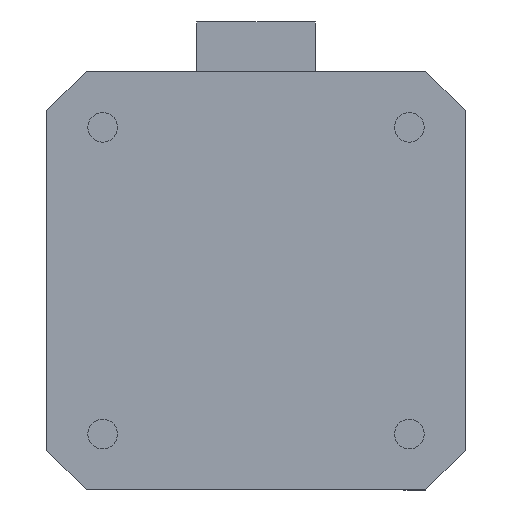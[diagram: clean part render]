
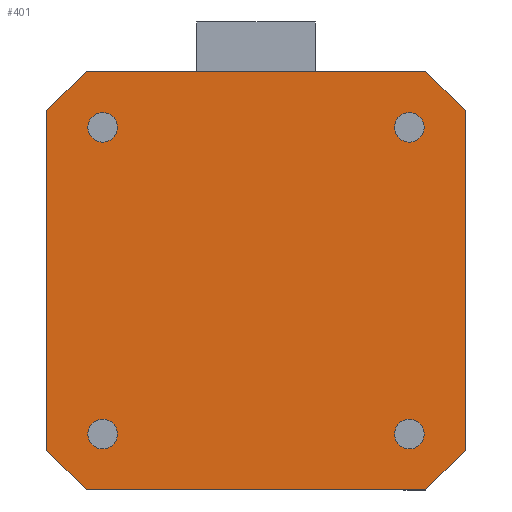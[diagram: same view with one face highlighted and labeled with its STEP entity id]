
A CAD part, front view. The second image highlights one B-rep face of the part: STEP entity #401.
In plain terms, the highlighted planar face has unit normal (0, -1, 0).
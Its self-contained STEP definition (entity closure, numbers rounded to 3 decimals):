
#35 = FACE_BOUND ( 'NONE', #2878, .T. ) ;
#60 = CARTESIAN_POINT ( 'NONE',  ( 15.5, 0., -14. ) ) ;
#81 = DIRECTION ( 'NONE',  ( 0., 0., -1. ) ) ;
#88 = EDGE_CURVE ( 'NONE', #451, #2428, #1458, .T. ) ;
#93 = CARTESIAN_POINT ( 'NONE',  ( 15.5, 0., 15.5 ) ) ;
#119 = DIRECTION ( 'NONE',  ( 0., 0., -1. ) ) ;
#151 = CARTESIAN_POINT ( 'NONE',  ( -17.157, 0., 21.15 ) ) ;
#168 = CARTESIAN_POINT ( 'NONE',  ( 21.15, 0., 17.157 ) ) ;
#197 = LINE ( 'NONE', #151, #1372 ) ;
#199 = EDGE_CURVE ( 'NONE', #692, #2116, #4118, .T. ) ;
#320 = AXIS2_PLACEMENT_3D ( 'NONE', #1161, #2853, #2538 ) ;
#373 = PLANE ( 'NONE',  #1700 ) ;
#388 = DIRECTION ( 'NONE',  ( 0., 0., -1. ) ) ;
#401 = ADVANCED_FACE ( 'NONE', ( #1120, #35, #1148, #2525, #770 ), #373, .T. ) ;
#451 = VERTEX_POINT ( 'NONE', #2931 ) ;
#499 = EDGE_LOOP ( 'NONE', ( #2709, #2235 ) ) ;
#518 = DIRECTION ( 'NONE',  ( 0.707, 0., 0.707 ) ) ;
#546 = VERTEX_POINT ( 'NONE', #734 ) ;
#564 = CARTESIAN_POINT ( 'NONE',  ( 17.157, 0., -21.15 ) ) ;
#584 = CARTESIAN_POINT ( 'NONE',  ( -17.157, 0., 21.15 ) ) ;
#601 = VERTEX_POINT ( 'NONE', #2872 ) ;
#605 = VERTEX_POINT ( 'NONE', #3557 ) ;
#659 = CIRCLE ( 'NONE', #1472, 1.5 ) ;
#676 = VERTEX_POINT ( 'NONE', #2179 ) ;
#692 = VERTEX_POINT ( 'NONE', #1424 ) ;
#725 = EDGE_CURVE ( 'NONE', #2428, #451, #2844, .T. ) ;
#734 = CARTESIAN_POINT ( 'NONE',  ( 15.5, 0., 14. ) ) ;
#770 = FACE_OUTER_BOUND ( 'NONE', #860, .T. ) ;
#788 = LINE ( 'NONE', #2189, #1762 ) ;
#797 = ORIENTED_EDGE ( 'NONE', *, *, #2356, .F. ) ;
#846 = CARTESIAN_POINT ( 'NONE',  ( -21.15, 0., -17.157 ) ) ;
#860 = EDGE_LOOP ( 'NONE', ( #3129, #797, #2274, #2351, #3214, #3267, #2206, #1140 ) ) ;
#871 = VERTEX_POINT ( 'NONE', #1560 ) ;
#874 = DIRECTION ( 'NONE',  ( 0., -1., 0. ) ) ;
#895 = AXIS2_PLACEMENT_3D ( 'NONE', #2795, #4199, #3849 ) ;
#1018 = CARTESIAN_POINT ( 'NONE',  ( -15.5, 0., 15.5 ) ) ;
#1030 = EDGE_CURVE ( 'NONE', #601, #3998, #197, .T. ) ;
#1079 = CARTESIAN_POINT ( 'NONE',  ( 15.5, 0., 15.5 ) ) ;
#1095 = DIRECTION ( 'NONE',  ( 0., -1., 0. ) ) ;
#1120 = FACE_BOUND ( 'NONE', #499, .T. ) ;
#1140 = ORIENTED_EDGE ( 'NONE', *, *, #3687, .F. ) ;
#1148 = FACE_BOUND ( 'NONE', #3358, .T. ) ;
#1161 = CARTESIAN_POINT ( 'NONE',  ( -15.5, 0., -15.5 ) ) ;
#1162 = VERTEX_POINT ( 'NONE', #564 ) ;
#1165 = VERTEX_POINT ( 'NONE', #2967 ) ;
#1192 = VERTEX_POINT ( 'NONE', #846 ) ;
#1209 = DIRECTION ( 'NONE',  ( 0., -1., 0. ) ) ;
#1233 = CARTESIAN_POINT ( 'NONE',  ( 15.5, 0., 17. ) ) ;
#1329 = DIRECTION ( 'NONE',  ( 0., -1., 0. ) ) ;
#1372 = VECTOR ( 'NONE', #518, 1000. ) ;
#1424 = CARTESIAN_POINT ( 'NONE',  ( -15.5, 0., 17. ) ) ;
#1437 = EDGE_CURVE ( 'NONE', #3230, #676, #4244, .T. ) ;
#1458 = CIRCLE ( 'NONE', #1537, 1.5 ) ;
#1472 = AXIS2_PLACEMENT_3D ( 'NONE', #93, #874, #1493 ) ;
#1493 = DIRECTION ( 'NONE',  ( 0., 0., -1. ) ) ;
#1537 = AXIS2_PLACEMENT_3D ( 'NONE', #3814, #2830, #388 ) ;
#1560 = CARTESIAN_POINT ( 'NONE',  ( -17.157, 0., -21.15 ) ) ;
#1594 = AXIS2_PLACEMENT_3D ( 'NONE', #4274, #1833, #119 ) ;
#1619 = EDGE_CURVE ( 'NONE', #2116, #692, #2444, .T. ) ;
#1696 = VECTOR ( 'NONE', #81, 1000. ) ;
#1700 = AXIS2_PLACEMENT_3D ( 'NONE', #2790, #1095, #4175 ) ;
#1715 = AXIS2_PLACEMENT_3D ( 'NONE', #1018, #1329, #2719 ) ;
#1762 = VECTOR ( 'NONE', #4259, 1000. ) ;
#1803 = VECTOR ( 'NONE', #1976, 1000. ) ;
#1813 = DIRECTION ( 'NONE',  ( -0.707, 0., 0.707 ) ) ;
#1833 = DIRECTION ( 'NONE',  ( 0., -1., 0. ) ) ;
#1879 = ORIENTED_EDGE ( 'NONE', *, *, #88, .F. ) ;
#1932 = VERTEX_POINT ( 'NONE', #1233 ) ;
#1973 = EDGE_CURVE ( 'NONE', #676, #3230, #2664, .T. ) ;
#1976 = DIRECTION ( 'NONE',  ( 1., 0., 0. ) ) ;
#2057 = DIRECTION ( 'NONE',  ( 0.707, 0., -0.707 ) ) ;
#2116 = VERTEX_POINT ( 'NONE', #4116 ) ;
#2143 = EDGE_CURVE ( 'NONE', #546, #1932, #4398, .T. ) ;
#2167 = LINE ( 'NONE', #3537, #2570 ) ;
#2171 = EDGE_CURVE ( 'NONE', #1165, #2859, #3454, .T. ) ;
#2179 = CARTESIAN_POINT ( 'NONE',  ( -15.5, 0., -14. ) ) ;
#2189 = CARTESIAN_POINT ( 'NONE',  ( -17.157, 0., -21.15 ) ) ;
#2206 = ORIENTED_EDGE ( 'NONE', *, *, #4470, .F. ) ;
#2207 = VECTOR ( 'NONE', #4113, 1000. ) ;
#2233 = DIRECTION ( 'NONE',  ( 0., 0., -1. ) ) ;
#2235 = ORIENTED_EDGE ( 'NONE', *, *, #1973, .F. ) ;
#2274 = ORIENTED_EDGE ( 'NONE', *, *, #1030, .F. ) ;
#2314 = ORIENTED_EDGE ( 'NONE', *, *, #199, .F. ) ;
#2351 = ORIENTED_EDGE ( 'NONE', *, *, #3115, .F. ) ;
#2356 = EDGE_CURVE ( 'NONE', #3998, #1165, #3034, .T. ) ;
#2398 = LINE ( 'NONE', #3804, #2207 ) ;
#2416 = DIRECTION ( 'NONE',  ( 0., -1., 0. ) ) ;
#2428 = VERTEX_POINT ( 'NONE', #60 ) ;
#2444 = CIRCLE ( 'NONE', #1715, 1.5 ) ;
#2525 = FACE_BOUND ( 'NONE', #3951, .T. ) ;
#2538 = DIRECTION ( 'NONE',  ( 0., 0., -1. ) ) ;
#2561 = CARTESIAN_POINT ( 'NONE',  ( -15.5, 0., 15.5 ) ) ;
#2570 = VECTOR ( 'NONE', #1813, 1000. ) ;
#2615 = ORIENTED_EDGE ( 'NONE', *, *, #3023, .F. ) ;
#2664 = CIRCLE ( 'NONE', #1594, 1.5 ) ;
#2709 = ORIENTED_EDGE ( 'NONE', *, *, #1437, .F. ) ;
#2719 = DIRECTION ( 'NONE',  ( 0., 0., -1. ) ) ;
#2790 = CARTESIAN_POINT ( 'NONE',  ( 0., 0., 0. ) ) ;
#2795 = CARTESIAN_POINT ( 'NONE',  ( 15.5, 0., -15.5 ) ) ;
#2830 = DIRECTION ( 'NONE',  ( 0., -1., 0. ) ) ;
#2844 = CIRCLE ( 'NONE', #895, 1.5 ) ;
#2853 = DIRECTION ( 'NONE',  ( 0., -1., 0. ) ) ;
#2859 = VERTEX_POINT ( 'NONE', #168 ) ;
#2872 = CARTESIAN_POINT ( 'NONE',  ( -21.15, 0., 17.157 ) ) ;
#2878 = EDGE_LOOP ( 'NONE', ( #1879, #3547 ) ) ;
#2887 = CARTESIAN_POINT ( 'NONE',  ( 21.15, 0., 17.157 ) ) ;
#2931 = CARTESIAN_POINT ( 'NONE',  ( 15.5, 0., -17. ) ) ;
#2946 = CARTESIAN_POINT ( 'NONE',  ( 17.157, 0., -21.15 ) ) ;
#2967 = CARTESIAN_POINT ( 'NONE',  ( 17.157, 0., 21.15 ) ) ;
#3023 = EDGE_CURVE ( 'NONE', #1932, #546, #659, .T. ) ;
#3034 = LINE ( 'NONE', #584, #1803 ) ;
#3085 = DIRECTION ( 'NONE',  ( -0.707, 0., -0.707 ) ) ;
#3096 = CARTESIAN_POINT ( 'NONE',  ( -15.5, 0., -17. ) ) ;
#3115 = EDGE_CURVE ( 'NONE', #1192, #601, #2398, .T. ) ;
#3129 = ORIENTED_EDGE ( 'NONE', *, *, #2171, .F. ) ;
#3141 = CARTESIAN_POINT ( 'NONE',  ( 21.15, 0., 17.157 ) ) ;
#3191 = ORIENTED_EDGE ( 'NONE', *, *, #1619, .F. ) ;
#3194 = LINE ( 'NONE', #2887, #1696 ) ;
#3214 = ORIENTED_EDGE ( 'NONE', *, *, #3863, .F. ) ;
#3230 = VERTEX_POINT ( 'NONE', #3096 ) ;
#3267 = ORIENTED_EDGE ( 'NONE', *, *, #3817, .F. ) ;
#3288 = LINE ( 'NONE', #2946, #3366 ) ;
#3358 = EDGE_LOOP ( 'NONE', ( #3608, #2615 ) ) ;
#3366 = VECTOR ( 'NONE', #3085, 1000. ) ;
#3454 = LINE ( 'NONE', #3141, #4114 ) ;
#3519 = CARTESIAN_POINT ( 'NONE',  ( -17.157, 0., 21.15 ) ) ;
#3537 = CARTESIAN_POINT ( 'NONE',  ( -21.15, 0., -17.157 ) ) ;
#3539 = AXIS2_PLACEMENT_3D ( 'NONE', #1079, #2416, #3765 ) ;
#3547 = ORIENTED_EDGE ( 'NONE', *, *, #725, .F. ) ;
#3557 = CARTESIAN_POINT ( 'NONE',  ( 21.15, 0., -17.157 ) ) ;
#3608 = ORIENTED_EDGE ( 'NONE', *, *, #2143, .F. ) ;
#3687 = EDGE_CURVE ( 'NONE', #2859, #605, #3194, .T. ) ;
#3765 = DIRECTION ( 'NONE',  ( 0., 0., -1. ) ) ;
#3804 = CARTESIAN_POINT ( 'NONE',  ( -21.15, 0., 17.157 ) ) ;
#3814 = CARTESIAN_POINT ( 'NONE',  ( 15.5, 0., -15.5 ) ) ;
#3817 = EDGE_CURVE ( 'NONE', #1162, #871, #788, .T. ) ;
#3849 = DIRECTION ( 'NONE',  ( 0., 0., -1. ) ) ;
#3863 = EDGE_CURVE ( 'NONE', #871, #1192, #2167, .T. ) ;
#3893 = AXIS2_PLACEMENT_3D ( 'NONE', #2561, #1209, #2233 ) ;
#3951 = EDGE_LOOP ( 'NONE', ( #3191, #2314 ) ) ;
#3998 = VERTEX_POINT ( 'NONE', #3519 ) ;
#4113 = DIRECTION ( 'NONE',  ( 0., 0., 1. ) ) ;
#4114 = VECTOR ( 'NONE', #2057, 1000. ) ;
#4116 = CARTESIAN_POINT ( 'NONE',  ( -15.5, 0., 14. ) ) ;
#4118 = CIRCLE ( 'NONE', #3893, 1.5 ) ;
#4175 = DIRECTION ( 'NONE',  ( 0., 0., -1. ) ) ;
#4199 = DIRECTION ( 'NONE',  ( 0., -1., 0. ) ) ;
#4244 = CIRCLE ( 'NONE', #320, 1.5 ) ;
#4259 = DIRECTION ( 'NONE',  ( -1., 0., 0. ) ) ;
#4274 = CARTESIAN_POINT ( 'NONE',  ( -15.5, 0., -15.5 ) ) ;
#4398 = CIRCLE ( 'NONE', #3539, 1.5 ) ;
#4470 = EDGE_CURVE ( 'NONE', #605, #1162, #3288, .T. ) ;
